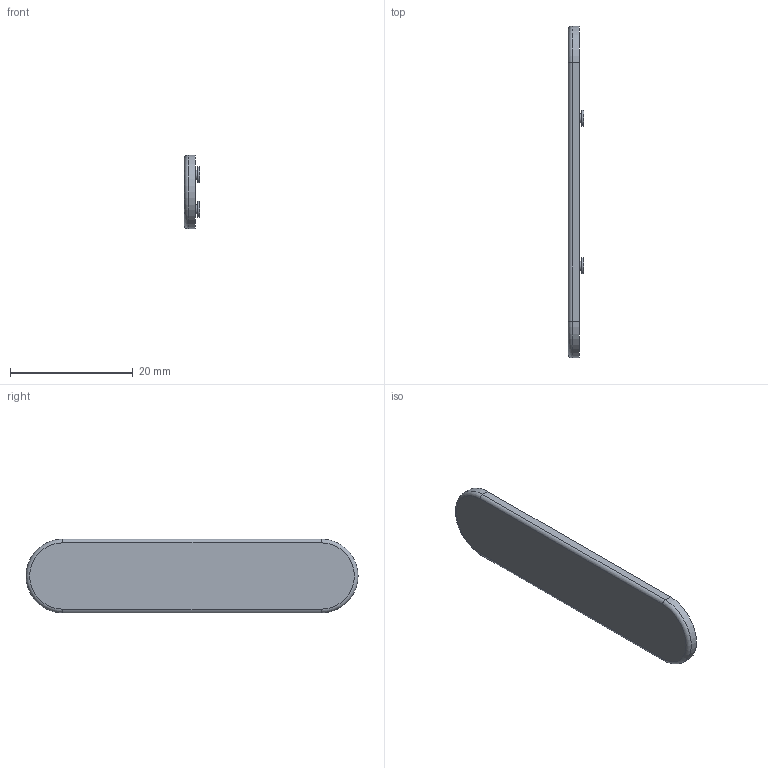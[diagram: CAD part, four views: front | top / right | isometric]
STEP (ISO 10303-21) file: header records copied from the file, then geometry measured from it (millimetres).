
FILE_DESCRIPTION(/* description */ (''),/* implementation_level */ '2;1');
FILE_NAME(/* name */ 'C28_R1_16_Smooth_Ember_PTT_Grip.step',/* time_stamp */ '2026-09-10T17:48:37-07:00',/* author */ (''),/* organization */ (''),/* preprocessor_version */ 'ST-DEVELOPER v20.1',/* originating_system */ 'Autodesk Translation Framework v15.8.0.0',/* authorisation */ '');
FILE_SCHEMA (('AUTOMOTIVE_DESIGN { 1 0 10303 214 3 1 1 }'));
Length unit declared in the file: millimetre
Products named in the file (1): 2026-09-10-17-48-37-732
Bounding box: 2.5 x 54 x 12 mm (x, y, z)
Volume: 1110.4 mm3; surface area: 1467.2 mm2
Topology: 1 solids, 1 shells, 26 faces, 44 edges, 28 vertices
Faces by surface type: cylinder 12, plane 12, torus 2
Full cylindrical faces by diameter (mm): 1.5 x4, 2.6 x4
Entity records: 655 total; most frequent: DIRECTION 124, CARTESIAN_POINT 99, ORIENTED_EDGE 88, AXIS2_PLACEMENT_3D 53, EDGE_CURVE 44, EDGE_LOOP 34, VERTEX_POINT 28, FACE_OUTER_BOUND 26
